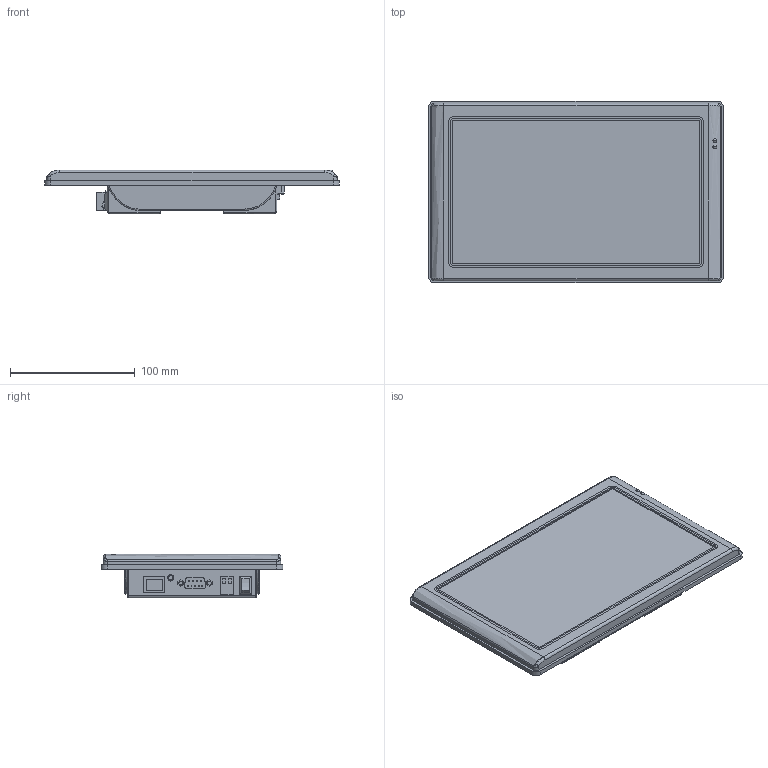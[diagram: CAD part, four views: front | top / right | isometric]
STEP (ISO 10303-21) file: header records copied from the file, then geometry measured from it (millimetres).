
FILE_DESCRIPTION (( 'STEP AP214' ), '1' );
FILE_NAME ('820-0232-1R.STEP', '2012-05-02T19:01:09', ( 'Cognoid' ), ( 'Microsoft' ), 'SwSTEP 2.0', 'SolidWorks 2012', '' );
FILE_SCHEMA (( 'AUTOMOTIVE_DESIGN' ));
Length unit declared in the file: millimetre
Products named in the file (3): flat head screw_am_B18.6.7M - M3 x 0.5 x 5 Type I Cross Recessed FHMS --5N; ICOP_Sensorview; 820-0232-1R
Assembly tree (7 placements, depth 2):
  820-0232-1R
    ICOP_Sensorview
    flat head screw_am_B18.6.7M - M3 x 0.5 x 5 Type I Cross Recessed FHMS --5N  x6
Bounding box: 236.6 x 146 x 35.03 mm (x, y, z)
Volume: 690501.9 mm3; surface area: 95051.4 mm2
Topology: 7 solids, 7 shells, 560 faces, 1346 edges, 836 vertices
Faces by surface type: plane 301, cylinder 173, cone 52, bspline 20, torus 10, sphere 4
Entity records: 16621 total; most frequent: CARTESIAN_POINT 3714, DIRECTION 2260, ORIENTED_EDGE 2196, EDGE_CURVE 1098, AXIS2_PLACEMENT_3D 769, LINE 722, VECTOR 722, VERTEX_POINT 710
